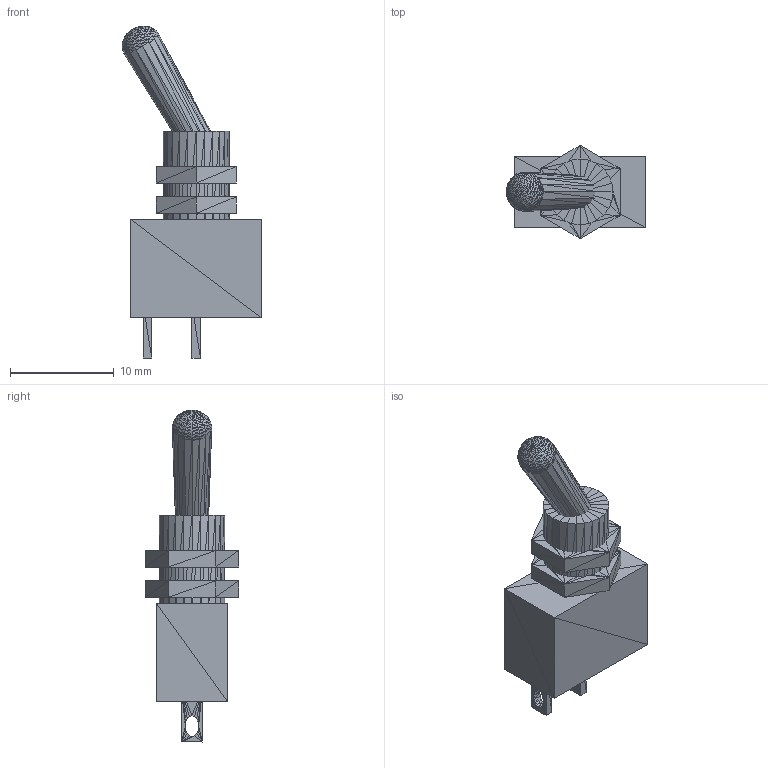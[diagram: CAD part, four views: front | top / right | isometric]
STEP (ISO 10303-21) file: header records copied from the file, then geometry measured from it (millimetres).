
FILE_DESCRIPTION(('HOOPS Exchange Step'),'2;1');
FILE_NAME('***.stp');
FILE_SCHEMA( ('AP242_MANAGED_MODEL_BASED_3D_ENGINEERING_MIM_LF {1 0 10303 442 1 1 4 }') );
Length unit declared in the file: inch
Products named in the file (8): SWSMSPST2P_TOG_2; SWSMSPST2P_TOG_3; SWSMSPST2P_TOG_4; SWSMSPST2P_TOG_5; SWSMSPST2P_TOG_6; SWSMSPST2P_TOG_7; SWSMSPST2P_TOG_8; SWSMSPST2P_TOG
Assembly tree (7 placements, depth 2):
  SWSMSPST2P_TOG
    SWSMSPST2P_TOG_2
    SWSMSPST2P_TOG_3
    SWSMSPST2P_TOG_4
    SWSMSPST2P_TOG_5
    SWSMSPST2P_TOG_6
    SWSMSPST2P_TOG_7
    SWSMSPST2P_TOG_8
Bounding box: 13.5 x 9.02 x 32.05 mm (x, y, z)
Volume: 843.2 mm3; surface area: 1943.2 mm2
Topology: 3 solids, 1643 shells, 1820 faces, 1484 edges, 492 vertices
Faces by surface type: plane 1820
Entity records: 28760 total; most frequent: ORIENTED_EDGE 5460, DIRECTION 5156, CARTESIAN_POINT 3812, AXIS2_PLACEMENT_3D 1836, PLANE 1820, EDGE_LOOP 1820, FACE_BOUND 1820, ADVANCED_FACE 1820
